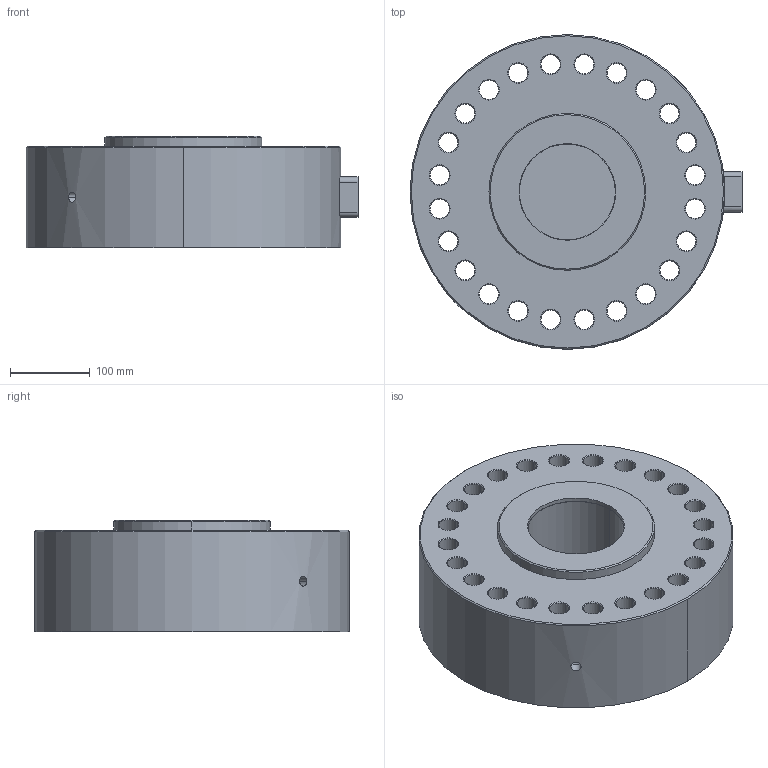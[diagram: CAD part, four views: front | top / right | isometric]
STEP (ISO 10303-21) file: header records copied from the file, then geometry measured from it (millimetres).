
FILE_DESCRIPTION (( 'STEP AP203' ), '1' );
FILE_NAME ('Interface 1260-2700KN.STEP', '2011-06-07T17:48:19', ( ' ' ), ( '' ), 'SwSTEP 2.0', 'SolidWorks 2002349', '' );
FILE_SCHEMA (( 'CONFIG_CONTROL_DESIGN' ));
Length unit declared in the file: inch
Products named in the file (1): Interface 1260-2700KN
Bounding box: 415.29 x 393.7 x 139.7 mm (x, y, z)
Volume: 13213549.7 mm3; surface area: 664725.8 mm2
Topology: 1 solids, 1 shells, 307 faces, 778 edges, 504 vertices
Faces by surface type: cylinder 131, plane 83, cone 66, bspline 24, sphere 3
Entity records: 10410 total; most frequent: CARTESIAN_POINT 2868, DIRECTION 1597, ORIENTED_EDGE 1548, EDGE_CURVE 774, AXIS2_PLACEMENT_3D 651, VERTEX_POINT 504, EDGE_LOOP 390, CIRCLE 367
